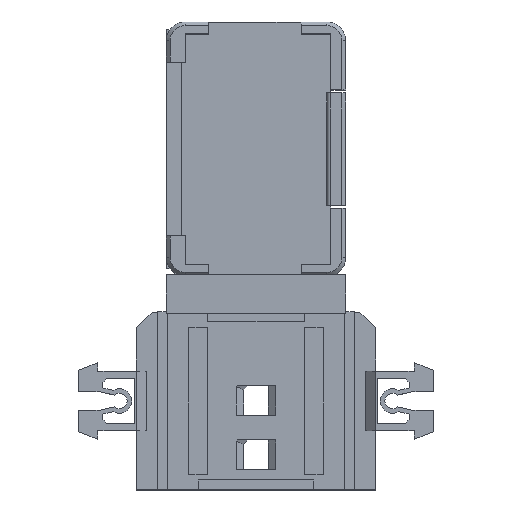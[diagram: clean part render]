
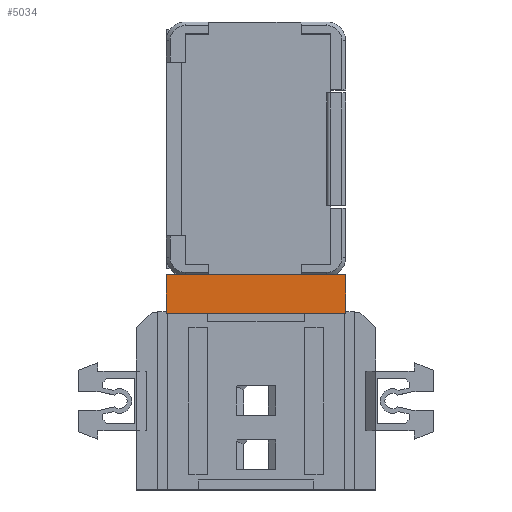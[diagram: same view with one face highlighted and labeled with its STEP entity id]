
A CAD part, top view. The second image highlights one B-rep face of the part: STEP entity #5034.
In plain terms, the highlighted planar face has unit normal (0, 0, 1).
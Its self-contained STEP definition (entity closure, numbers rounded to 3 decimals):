
#127 = PLANE('',#128);
#128 = AXIS2_PLACEMENT_3D('',#129,#130,#131);
#129 = CARTESIAN_POINT('',(-12.,30.908,33.02));
#130 = DIRECTION('',(-0.,1.,0.));
#131 = DIRECTION('',(0.,0.,1.));
#2662 = VERTEX_POINT('',#2663);
#2663 = CARTESIAN_POINT('',(-12.,30.908,39.62));
#2677 = PLANE('',#2678);
#2678 = AXIS2_PLACEMENT_3D('',#2679,#2680,#2681);
#2679 = CARTESIAN_POINT('',(-12.,25.708,33.02));
#2680 = DIRECTION('',(1.,0.,-0.));
#2681 = DIRECTION('',(0.,0.,1.));
#2689 = EDGE_CURVE('',#2662,#2690,#2692,.T.);
#2690 = VERTEX_POINT('',#2691);
#2691 = CARTESIAN_POINT('',(12.,30.908,39.62));
#2692 = SURFACE_CURVE('',#2693,(#2697,#2704),.PCURVE_S1.);
#2693 = LINE('',#2694,#2695);
#2694 = CARTESIAN_POINT('',(-12.,30.908,39.62));
#2695 = VECTOR('',#2696,1.);
#2696 = DIRECTION('',(1.,0.,-0.));
#2697 = PCURVE('',#127,#2698);
#2698 = DEFINITIONAL_REPRESENTATION('',(#2699),#2703);
#2699 = LINE('',#2700,#2701);
#2700 = CARTESIAN_POINT('',(6.6,0.));
#2701 = VECTOR('',#2702,1.);
#2702 = DIRECTION('',(0.,1.));
#2703 = ( GEOMETRIC_REPRESENTATION_CONTEXT(2) 
PARAMETRIC_REPRESENTATION_CONTEXT() REPRESENTATION_CONTEXT('2D SPACE',''
  ) );
#2704 = PCURVE('',#2705,#2710);
#2705 = PLANE('',#2706);
#2706 = AXIS2_PLACEMENT_3D('',#2707,#2708,#2709);
#2707 = CARTESIAN_POINT('',(-12.,25.708,39.62));
#2708 = DIRECTION('',(0.,0.,1.));
#2709 = DIRECTION('',(1.,0.,-0.));
#2710 = DEFINITIONAL_REPRESENTATION('',(#2711),#2715);
#2711 = LINE('',#2712,#2713);
#2712 = CARTESIAN_POINT('',(0.,5.2));
#2713 = VECTOR('',#2714,1.);
#2714 = DIRECTION('',(1.,0.));
#2715 = ( GEOMETRIC_REPRESENTATION_CONTEXT(2) 
PARAMETRIC_REPRESENTATION_CONTEXT() REPRESENTATION_CONTEXT('2D SPACE',''
  ) );
#2733 = PLANE('',#2734);
#2734 = AXIS2_PLACEMENT_3D('',#2735,#2736,#2737);
#2735 = CARTESIAN_POINT('',(12.,25.708,33.02));
#2736 = DIRECTION('',(1.,0.,-0.));
#2737 = DIRECTION('',(0.,0.,1.));
#4935 = VERTEX_POINT('',#4936);
#4936 = CARTESIAN_POINT('',(12.,25.708,39.62));
#4950 = PLANE('',#4951);
#4951 = AXIS2_PLACEMENT_3D('',#4952,#4953,#4954);
#4952 = CARTESIAN_POINT('',(-12.,25.708,33.02));
#4953 = DIRECTION('',(-0.,1.,0.));
#4954 = DIRECTION('',(0.,0.,1.));
#5014 = EDGE_CURVE('',#4935,#2690,#5015,.T.);
#5015 = SURFACE_CURVE('',#5016,(#5020,#5027),.PCURVE_S1.);
#5016 = LINE('',#5017,#5018);
#5017 = CARTESIAN_POINT('',(12.,25.708,39.62));
#5018 = VECTOR('',#5019,1.);
#5019 = DIRECTION('',(-0.,1.,0.));
#5020 = PCURVE('',#2733,#5021);
#5021 = DEFINITIONAL_REPRESENTATION('',(#5022),#5026);
#5022 = LINE('',#5023,#5024);
#5023 = CARTESIAN_POINT('',(6.6,0.));
#5024 = VECTOR('',#5025,1.);
#5025 = DIRECTION('',(0.,-1.));
#5026 = ( GEOMETRIC_REPRESENTATION_CONTEXT(2) 
PARAMETRIC_REPRESENTATION_CONTEXT() REPRESENTATION_CONTEXT('2D SPACE',''
  ) );
#5027 = PCURVE('',#2705,#5028);
#5028 = DEFINITIONAL_REPRESENTATION('',(#5029),#5033);
#5029 = LINE('',#5030,#5031);
#5030 = CARTESIAN_POINT('',(24.,0.));
#5031 = VECTOR('',#5032,1.);
#5032 = DIRECTION('',(0.,1.));
#5033 = ( GEOMETRIC_REPRESENTATION_CONTEXT(2) 
PARAMETRIC_REPRESENTATION_CONTEXT() REPRESENTATION_CONTEXT('2D SPACE',''
  ) );
#5034 = ADVANCED_FACE('',(#5035),#2705,.T.);
#5035 = FACE_BOUND('',#5036,.T.);
#5036 = EDGE_LOOP('',(#5037,#5060,#5081,#5082));
#5037 = ORIENTED_EDGE('',*,*,#5038,.F.);
#5038 = EDGE_CURVE('',#5039,#2662,#5041,.T.);
#5039 = VERTEX_POINT('',#5040);
#5040 = CARTESIAN_POINT('',(-12.,25.708,39.62));
#5041 = SURFACE_CURVE('',#5042,(#5046,#5053),.PCURVE_S1.);
#5042 = LINE('',#5043,#5044);
#5043 = CARTESIAN_POINT('',(-12.,25.708,39.62));
#5044 = VECTOR('',#5045,1.);
#5045 = DIRECTION('',(-0.,1.,0.));
#5046 = PCURVE('',#2705,#5047);
#5047 = DEFINITIONAL_REPRESENTATION('',(#5048),#5052);
#5048 = LINE('',#5049,#5050);
#5049 = CARTESIAN_POINT('',(0.,0.));
#5050 = VECTOR('',#5051,1.);
#5051 = DIRECTION('',(0.,1.));
#5052 = ( GEOMETRIC_REPRESENTATION_CONTEXT(2) 
PARAMETRIC_REPRESENTATION_CONTEXT() REPRESENTATION_CONTEXT('2D SPACE',''
  ) );
#5053 = PCURVE('',#2677,#5054);
#5054 = DEFINITIONAL_REPRESENTATION('',(#5055),#5059);
#5055 = LINE('',#5056,#5057);
#5056 = CARTESIAN_POINT('',(6.6,0.));
#5057 = VECTOR('',#5058,1.);
#5058 = DIRECTION('',(0.,-1.));
#5059 = ( GEOMETRIC_REPRESENTATION_CONTEXT(2) 
PARAMETRIC_REPRESENTATION_CONTEXT() REPRESENTATION_CONTEXT('2D SPACE',''
  ) );
#5060 = ORIENTED_EDGE('',*,*,#5061,.T.);
#5061 = EDGE_CURVE('',#5039,#4935,#5062,.T.);
#5062 = SURFACE_CURVE('',#5063,(#5067,#5074),.PCURVE_S1.);
#5063 = LINE('',#5064,#5065);
#5064 = CARTESIAN_POINT('',(-12.,25.708,39.62));
#5065 = VECTOR('',#5066,1.);
#5066 = DIRECTION('',(1.,0.,-0.));
#5067 = PCURVE('',#2705,#5068);
#5068 = DEFINITIONAL_REPRESENTATION('',(#5069),#5073);
#5069 = LINE('',#5070,#5071);
#5070 = CARTESIAN_POINT('',(0.,0.));
#5071 = VECTOR('',#5072,1.);
#5072 = DIRECTION('',(1.,0.));
#5073 = ( GEOMETRIC_REPRESENTATION_CONTEXT(2) 
PARAMETRIC_REPRESENTATION_CONTEXT() REPRESENTATION_CONTEXT('2D SPACE',''
  ) );
#5074 = PCURVE('',#4950,#5075);
#5075 = DEFINITIONAL_REPRESENTATION('',(#5076),#5080);
#5076 = LINE('',#5077,#5078);
#5077 = CARTESIAN_POINT('',(6.6,0.));
#5078 = VECTOR('',#5079,1.);
#5079 = DIRECTION('',(0.,1.));
#5080 = ( GEOMETRIC_REPRESENTATION_CONTEXT(2) 
PARAMETRIC_REPRESENTATION_CONTEXT() REPRESENTATION_CONTEXT('2D SPACE',''
  ) );
#5081 = ORIENTED_EDGE('',*,*,#5014,.T.);
#5082 = ORIENTED_EDGE('',*,*,#2689,.F.);
